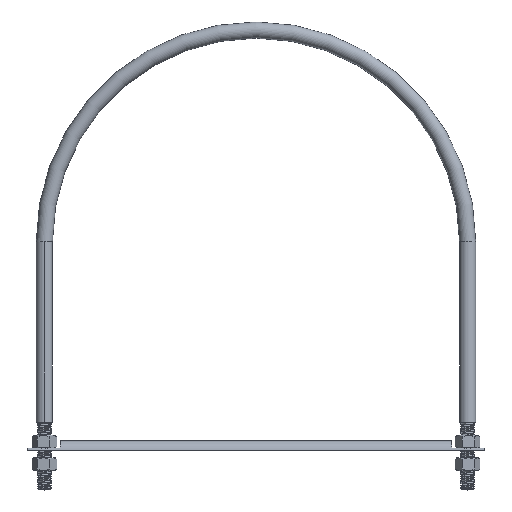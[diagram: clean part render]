
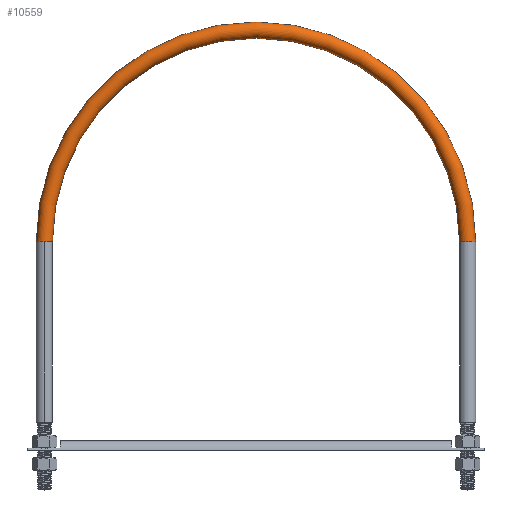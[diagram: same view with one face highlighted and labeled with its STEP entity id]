
A CAD part, top view. The second image highlights one B-rep face of the part: STEP entity #10559.
In plain terms, the highlighted toroidal (fillet/blend) face has major radius 376.238 mm and minor radius 14.383 mm.
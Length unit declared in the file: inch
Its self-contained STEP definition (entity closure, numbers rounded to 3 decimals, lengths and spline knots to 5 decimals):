
#982 = CARTESIAN_POINT ( 'NONE',  ( 0., 17.375, 0. ) ) ;
#1248 = CARTESIAN_POINT ( 'NONE',  ( 15.37875, 17.375, 0. ) ) ;
#1390 = CIRCLE ( 'NONE', #16242, 15.37875 ) ;
#1530 = DIRECTION ( 'NONE',  ( 0., 0., 1. ) ) ;
#2058 = CIRCLE ( 'NONE', #2705, 14.24625 ) ;
#2602 = DIRECTION ( 'NONE',  ( 1., 0., 0. ) ) ;
#2640 = AXIS2_PLACEMENT_3D ( 'NONE', #19142, #11382, #2841 ) ;
#2705 = AXIS2_PLACEMENT_3D ( 'NONE', #13571, #1530, #19727 ) ;
#2841 = DIRECTION ( 'NONE',  ( 0., 0., 1. ) ) ;
#2851 = ORIENTED_EDGE ( 'NONE', *, *, #15477, .F. ) ;
#5353 = CARTESIAN_POINT ( 'NONE',  ( -14.8125, 17.375, 0. ) ) ;
#5703 = FACE_OUTER_BOUND ( 'NONE', #14981, .T. ) ;
#6959 = ORIENTED_EDGE ( 'NONE', *, *, #12310, .T. ) ;
#7177 = ORIENTED_EDGE ( 'NONE', *, *, #8199, .F. ) ;
#7917 = CARTESIAN_POINT ( 'NONE',  ( 0., 17.375, 0. ) ) ;
#8119 = CIRCLE ( 'NONE', #2640, 0.56625 ) ;
#8199 = EDGE_CURVE ( 'Edge1', #17082, #18403, #8119, .T. ) ;
#9252 = DIRECTION ( 'NONE',  ( 0., 0., 1. ) ) ;
#9405 = CIRCLE ( 'NONE', #19407, 0.56625 ) ;
#9469 = CARTESIAN_POINT ( 'NONE',  ( 14.8125, 17.375, 0. ) ) ;
#10064 = ORIENTED_EDGE ( 'NONE', *, *, #18736, .T. ) ;
#10559 = ADVANCED_FACE ( 'Face1', ( #5703 ), #18752, .T. ) ;
#10874 = DIRECTION ( 'NONE',  ( 1., 0., 0. ) ) ;
#11047 = VERTEX_POINT ( 'NONE', #1248 ) ;
#11094 = DIRECTION ( 'NONE',  ( 0., 0., 1. ) ) ;
#11382 = DIRECTION ( 'NONE',  ( 0., -1., 0. ) ) ;
#11385 = CIRCLE ( 'NONE', #19108, 0.56625 ) ;
#11454 = DIRECTION ( 'NONE',  ( 0., -1., 0. ) ) ;
#11497 = CARTESIAN_POINT ( 'NONE',  ( -14.8125, 17.375, 0.56625 ) ) ;
#12310 = EDGE_CURVE ( 'NONE', #19291, #11047, #9405, .T. ) ;
#13571 = CARTESIAN_POINT ( 'NONE',  ( 0., 17.375, 0. ) ) ;
#14022 = DIRECTION ( 'NONE',  ( 0., 1., 0. ) ) ;
#14981 = EDGE_LOOP ( 'NONE', ( #6959, #10064, #7177, #2851, #19653 ) ) ;
#15477 = EDGE_CURVE ( 'Edge1', #18420, #17082, #11385, .T. ) ;
#16128 = CARTESIAN_POINT ( 'NONE',  ( -14.24625, 17.375, 0. ) ) ;
#16242 = AXIS2_PLACEMENT_3D ( 'NONE', #7917, #9252, #10874 ) ;
#16824 = AXIS2_PLACEMENT_3D ( 'NONE', #982, #18262, #2602 ) ;
#17082 = VERTEX_POINT ( 'NONE', #11497 ) ;
#18081 = CARTESIAN_POINT ( 'NONE',  ( -15.37875, 17.375, 0. ) ) ;
#18262 = DIRECTION ( 'NONE',  ( 0., 0., 1. ) ) ;
#18403 = VERTEX_POINT ( 'NONE', #18081 ) ;
#18420 = VERTEX_POINT ( 'NONE', #16128 ) ;
#18736 = EDGE_CURVE ( 'NONE', #11047, #18403, #1390, .T. ) ;
#18752 = TOROIDAL_SURFACE ( 'NONE', #16824, 14.8125, 0.56625 ) ;
#19108 = AXIS2_PLACEMENT_3D ( 'NONE', #5353, #11454, #19305 ) ;
#19142 = CARTESIAN_POINT ( 'NONE',  ( -14.8125, 17.375, 0. ) ) ;
#19291 = VERTEX_POINT ( 'NONE', #19928 ) ;
#19305 = DIRECTION ( 'NONE',  ( 0., 0., 1. ) ) ;
#19407 = AXIS2_PLACEMENT_3D ( 'NONE', #9469, #14022, #11094 ) ;
#19417 = EDGE_CURVE ( 'NONE', #19291, #18420, #2058, .T. ) ;
#19653 = ORIENTED_EDGE ( 'NONE', *, *, #19417, .F. ) ;
#19727 = DIRECTION ( 'NONE',  ( 1., 0., 0. ) ) ;
#19928 = CARTESIAN_POINT ( 'NONE',  ( 14.24625, 17.375, 0. ) ) ;
